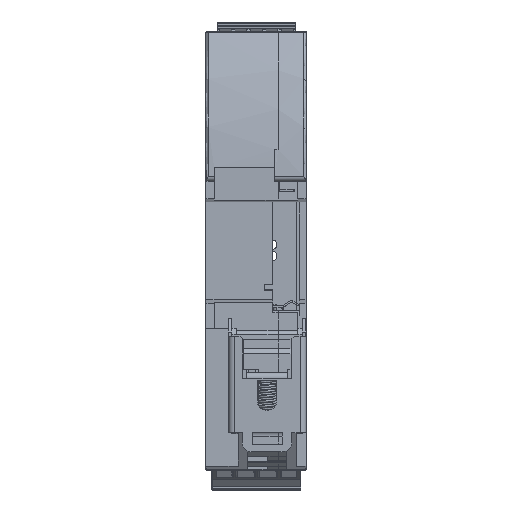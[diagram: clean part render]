
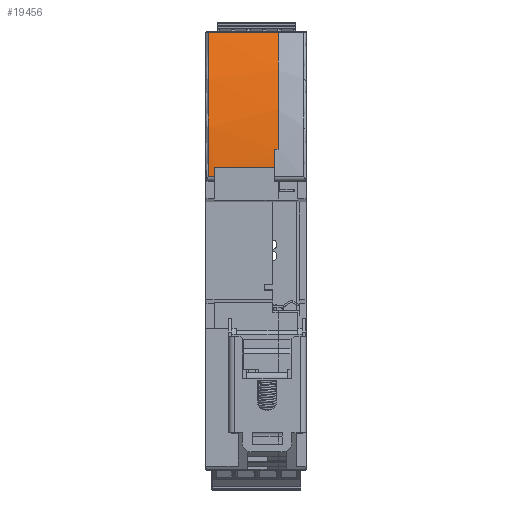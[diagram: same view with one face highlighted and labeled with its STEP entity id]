
A CAD part, left-side view. The second image highlights one B-rep face of the part: STEP entity #19456.
In plain terms, the highlighted cylindrical face has radius 80 mm (diameter 160 mm), a partial arc.
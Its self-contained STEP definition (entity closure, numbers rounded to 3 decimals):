
#12722=CYLINDRICAL_SURFACE('',#108348,80.);
#14792=FACE_OUTER_BOUND('',#30960,.T.);
#19456=ADVANCED_FACE('',(#14792),#12722,.T.);
#27250=CIRCLE('',#107835,80.);
#27268=CIRCLE('',#107868,80.);
#27387=CIRCLE('',#108345,80.);
#27388=CIRCLE('',#108347,80.);
#30960=EDGE_LOOP('',(#42020,#42021,#42022,#42023,#42024,#42025,#42026,#42027));
#42020=ORIENTED_EDGE('',*,*,#75672,.F.);
#42021=ORIENTED_EDGE('',*,*,#75673,.T.);
#42022=ORIENTED_EDGE('',*,*,#75674,.F.);
#42023=ORIENTED_EDGE('',*,*,#75675,.T.);
#42024=ORIENTED_EDGE('',*,*,#74694,.F.);
#42025=ORIENTED_EDGE('',*,*,#74754,.T.);
#42026=ORIENTED_EDGE('',*,*,#74749,.T.);
#42027=ORIENTED_EDGE('',*,*,#74745,.T.);
#64592=VERTEX_POINT('',#149140);
#64593=VERTEX_POINT('',#149142);
#64631=VERTEX_POINT('',#149270);
#64632=VERTEX_POINT('',#149272);
#64634=VERTEX_POINT('',#149323);
#65210=VERTEX_POINT('',#151360);
#65211=VERTEX_POINT('',#151364);
#65212=VERTEX_POINT('',#151366);
#74694=EDGE_CURVE('',#64592,#64593,#27250,.T.);
#74745=EDGE_CURVE('',#64632,#64631,#87855,.T.);
#74749=EDGE_CURVE('',#64634,#64632,#27268,.T.);
#74754=EDGE_CURVE('',#64592,#64634,#87859,.T.);
#75672=EDGE_CURVE('',#65210,#64631,#27387,.T.);
#75673=EDGE_CURVE('',#65210,#65211,#88604,.T.);
#75674=EDGE_CURVE('',#65212,#65211,#27388,.T.);
#75675=EDGE_CURVE('',#65212,#64593,#88605,.T.);
#87855=LINE('',#149271,#98147);
#87859=LINE('',#149370,#98151);
#88604=LINE('',#151363,#98896);
#88605=LINE('',#151367,#98897);
#98147=VECTOR('',#119400,1.);
#98151=VECTOR('',#119414,1.);
#98896=VECTOR('',#121111,1.);
#98897=VECTOR('',#121114,1.);
#107835=AXIS2_PLACEMENT_3D('',#149141,#119308,#119309);
#107868=AXIS2_PLACEMENT_3D('',#149322,#119407,#119408);
#108345=AXIS2_PLACEMENT_3D('',#151361,#121107,#121108);
#108347=AXIS2_PLACEMENT_3D('',#151365,#121112,#121113);
#108348=AXIS2_PLACEMENT_3D('',#151368,#121115,#121116);
#119308=DIRECTION('',(0.,-1.,0.));
#119309=DIRECTION('',(0.,0.,-1.));
#119400=DIRECTION('',(0.,-1.,0.));
#119407=DIRECTION('',(0.,-1.,0.));
#119408=DIRECTION('',(0.,0.,-1.));
#119414=DIRECTION('',(0.,1.,0.));
#121107=DIRECTION('',(0.,-1.,0.));
#121108=DIRECTION('',(0.,0.,-1.));
#121111=DIRECTION('',(0.,-1.,0.));
#121112=DIRECTION('',(0.,-1.,0.));
#121113=DIRECTION('',(0.,0.,-1.));
#121114=DIRECTION('',(0.,-1.,0.));
#121115=DIRECTION('',(0.,-1.,0.));
#121116=DIRECTION('',(0.,0.,1.));
#149140=CARTESIAN_POINT('',(-0.081,6.3,49.223));
#149141=CARTESIAN_POINT('',(71.5,6.3,13.5));
#149142=CARTESIAN_POINT('',(-7.946,6.3,22.9));
#149270=CARTESIAN_POINT('',(-8.434,20.7,16.741));
#149271=CARTESIAN_POINT('',(-8.434,22.6,16.741));
#149272=CARTESIAN_POINT('',(-8.434,22.1,16.741));
#149322=CARTESIAN_POINT('',(71.5,22.1,13.5));
#149323=CARTESIAN_POINT('',(-0.081,22.1,49.223));
#149370=CARTESIAN_POINT('',(-0.081,11.3,49.223));
#151360=CARTESIAN_POINT('',(-8.331,20.7,18.7));
#151361=CARTESIAN_POINT('',(71.5,20.7,13.5));
#151363=CARTESIAN_POINT('',(-8.331,12.1,18.7));
#151364=CARTESIAN_POINT('',(-8.331,7.1,18.7));
#151365=CARTESIAN_POINT('',(71.5,7.1,13.5));
#151366=CARTESIAN_POINT('',(-7.946,7.1,22.9));
#151367=CARTESIAN_POINT('',(-7.946,12.1,22.9));
#151368=CARTESIAN_POINT('',(71.5,12.1,13.5));
